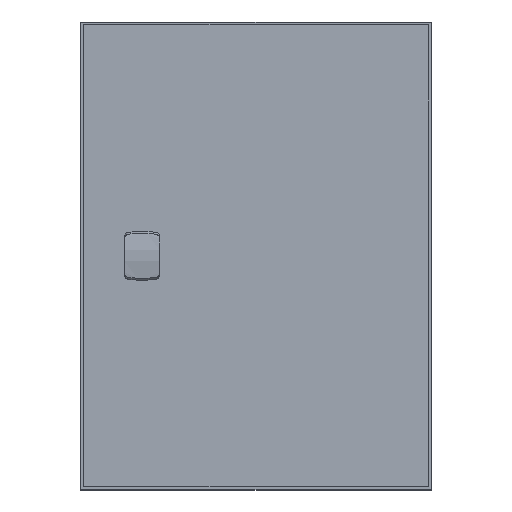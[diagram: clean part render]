
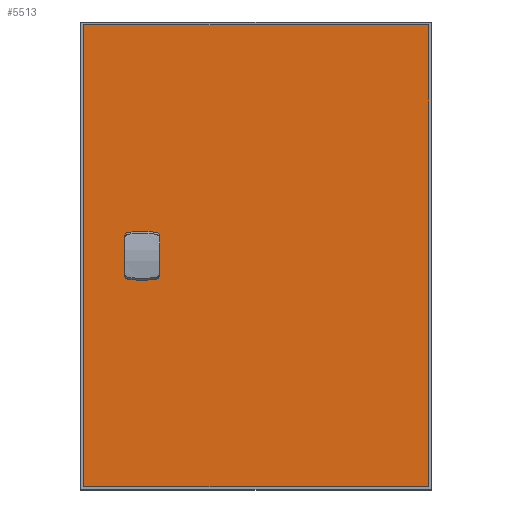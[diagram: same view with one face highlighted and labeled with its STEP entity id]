
A CAD part, top view. The second image highlights one B-rep face of the part: STEP entity #5513.
In plain terms, the highlighted planar face has unit normal (0, 0, 1).
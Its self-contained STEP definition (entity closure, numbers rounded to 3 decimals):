
#412=LINE('',#9198,#895);
#414=LINE('',#9205,#897);
#415=LINE('',#9209,#898);
#416=LINE('',#9211,#899);
#417=LINE('',#9215,#900);
#418=LINE('',#9217,#901);
#419=LINE('',#9221,#902);
#420=LINE('',#9225,#903);
#421=LINE('',#9227,#904);
#422=LINE('',#9231,#905);
#423=LINE('',#9233,#906);
#424=LINE('',#9234,#907);
#425=LINE('',#9236,#908);
#426=LINE('',#9238,#909);
#895=VECTOR('',#7559,1000.);
#897=VECTOR('',#7565,1000.);
#898=VECTOR('',#7568,1000.);
#899=VECTOR('',#7569,1000.);
#900=VECTOR('',#7572,1000.);
#901=VECTOR('',#7573,1000.);
#902=VECTOR('',#7576,1000.);
#903=VECTOR('',#7579,1000.);
#904=VECTOR('',#7580,1000.);
#905=VECTOR('',#7583,1000.);
#906=VECTOR('',#7584,1000.);
#907=VECTOR('',#7585,1000.);
#908=VECTOR('',#7586,1000.);
#909=VECTOR('',#7587,1000.);
#1771=ORIENTED_EDGE('',*,*,#2984,.F.);
#1772=ORIENTED_EDGE('',*,*,#2985,.F.);
#1773=ORIENTED_EDGE('',*,*,#2986,.F.);
#1774=ORIENTED_EDGE('',*,*,#2987,.F.);
#1775=ORIENTED_EDGE('',*,*,#2988,.F.);
#1776=ORIENTED_EDGE('',*,*,#2989,.F.);
#1777=ORIENTED_EDGE('',*,*,#2990,.F.);
#1778=ORIENTED_EDGE('',*,*,#2991,.F.);
#1779=ORIENTED_EDGE('',*,*,#2992,.F.);
#1780=ORIENTED_EDGE('',*,*,#2993,.F.);
#1781=ORIENTED_EDGE('',*,*,#2994,.F.);
#1782=ORIENTED_EDGE('',*,*,#2995,.F.);
#1783=ORIENTED_EDGE('',*,*,#2996,.F.);
#1784=ORIENTED_EDGE('',*,*,#2997,.F.);
#1785=ORIENTED_EDGE('',*,*,#2998,.F.);
#1786=ORIENTED_EDGE('',*,*,#2999,.F.);
#1787=ORIENTED_EDGE('',*,*,#3000,.T.);
#1788=ORIENTED_EDGE('',*,*,#3001,.F.);
#1789=ORIENTED_EDGE('',*,*,#3002,.F.);
#1790=ORIENTED_EDGE('',*,*,#2982,.T.);
#2982=EDGE_CURVE('',#3654,#3653,#412,.T.);
#2984=EDGE_CURVE('',#3655,#3656,#4058,.T.);
#2985=EDGE_CURVE('',#3657,#3655,#414,.T.);
#2986=EDGE_CURVE('',#3658,#3657,#4059,.T.);
#2987=EDGE_CURVE('',#3659,#3658,#415,.T.);
#2988=EDGE_CURVE('',#3660,#3659,#416,.T.);
#2989=EDGE_CURVE('',#3661,#3660,#4060,.T.);
#2990=EDGE_CURVE('',#3662,#3661,#417,.T.);
#2991=EDGE_CURVE('',#3663,#3662,#418,.T.);
#2992=EDGE_CURVE('',#3664,#3663,#4061,.T.);
#2993=EDGE_CURVE('',#3665,#3664,#419,.T.);
#2994=EDGE_CURVE('',#3666,#3665,#4062,.T.);
#2995=EDGE_CURVE('',#3667,#3666,#420,.T.);
#2996=EDGE_CURVE('',#3668,#3667,#421,.T.);
#2997=EDGE_CURVE('',#3669,#3668,#4063,.T.);
#2998=EDGE_CURVE('',#3670,#3669,#422,.T.);
#2999=EDGE_CURVE('',#3656,#3670,#423,.T.);
#3000=EDGE_CURVE('',#3653,#3671,#424,.T.);
#3001=EDGE_CURVE('',#3672,#3671,#425,.T.);
#3002=EDGE_CURVE('',#3654,#3672,#426,.T.);
#3653=VERTEX_POINT('',#9197);
#3654=VERTEX_POINT('',#9199);
#3655=VERTEX_POINT('',#9203);
#3656=VERTEX_POINT('',#9204);
#3657=VERTEX_POINT('',#9206);
#3658=VERTEX_POINT('',#9208);
#3659=VERTEX_POINT('',#9210);
#3660=VERTEX_POINT('',#9212);
#3661=VERTEX_POINT('',#9214);
#3662=VERTEX_POINT('',#9216);
#3663=VERTEX_POINT('',#9218);
#3664=VERTEX_POINT('',#9220);
#3665=VERTEX_POINT('',#9222);
#3666=VERTEX_POINT('',#9224);
#3667=VERTEX_POINT('',#9226);
#3668=VERTEX_POINT('',#9228);
#3669=VERTEX_POINT('',#9230);
#3670=VERTEX_POINT('',#9232);
#3671=VERTEX_POINT('',#9235);
#3672=VERTEX_POINT('',#9237);
#4058=CIRCLE('',#6529,11.3);
#4059=CIRCLE('',#6530,11.3);
#4060=CIRCLE('',#6531,1.25);
#4061=CIRCLE('',#6532,11.3);
#4062=CIRCLE('',#6533,11.3);
#4063=CIRCLE('',#6534,1.25);
#4415=EDGE_LOOP('',(#1771,#1772,#1773,#1774,#1775,#1776,#1777,#1778,#1779,
#1780,#1781,#1782,#1783,#1784,#1785,#1786));
#4416=EDGE_LOOP('',(#1787,#1788,#1789,#1790));
#4902=FACE_BOUND('',#4415,.T.);
#4903=FACE_BOUND('',#4416,.T.);
#5232=PLANE('',#6528);
#5513=ADVANCED_FACE('',(#4902,#4903),#5232,.F.);
#6528=AXIS2_PLACEMENT_3D('',#9201,#7561,#7562);
#6529=AXIS2_PLACEMENT_3D('',#9202,#7563,#7564);
#6530=AXIS2_PLACEMENT_3D('',#9207,#7566,#7567);
#6531=AXIS2_PLACEMENT_3D('',#9213,#7570,#7571);
#6532=AXIS2_PLACEMENT_3D('',#9219,#7574,#7575);
#6533=AXIS2_PLACEMENT_3D('',#9223,#7577,#7578);
#6534=AXIS2_PLACEMENT_3D('',#9229,#7581,#7582);
#7559=DIRECTION('',(0.,-1.,0.));
#7561=DIRECTION('',(0.,0.,-1.));
#7562=DIRECTION('',(-1.,0.,0.));
#7563=DIRECTION('',(0.,0.,1.));
#7564=DIRECTION('',(1.,0.,0.));
#7565=DIRECTION('',(0.,-1.,0.));
#7566=DIRECTION('',(0.,0.,1.));
#7567=DIRECTION('',(1.,0.,0.));
#7568=DIRECTION('',(-1.,0.,0.));
#7569=DIRECTION('',(0.,-1.,0.));
#7570=DIRECTION('',(0.,0.,1.));
#7571=DIRECTION('',(1.,0.,0.));
#7572=DIRECTION('',(0.,1.,0.));
#7573=DIRECTION('',(-1.,0.,0.));
#7574=DIRECTION('',(0.,0.,1.));
#7575=DIRECTION('',(1.,0.,0.));
#7576=DIRECTION('',(0.,1.,0.));
#7577=DIRECTION('',(0.,0.,1.));
#7578=DIRECTION('',(1.,0.,0.));
#7579=DIRECTION('',(1.,0.,0.));
#7580=DIRECTION('',(0.,1.,0.));
#7581=DIRECTION('',(0.,0.,1.));
#7582=DIRECTION('',(1.,0.,0.));
#7583=DIRECTION('',(0.,-1.,0.));
#7584=DIRECTION('',(1.,0.,0.));
#7585=DIRECTION('',(1.,0.,0.));
#7586=DIRECTION('',(0.,-1.,0.));
#7587=DIRECTION('',(1.,0.,0.));
#9197=CARTESIAN_POINT('',(-147.5,-197.5,0.));
#9198=CARTESIAN_POINT('',(-147.5,197.5,0.));
#9199=CARTESIAN_POINT('',(-147.5,197.5,0.));
#9201=CARTESIAN_POINT('',(-147.5,197.5,0.));
#9202=CARTESIAN_POINT('',(-97.5,0.,0.));
#9203=CARTESIAN_POINT('',(-107.65,-4.967,0.));
#9204=CARTESIAN_POINT('',(-102.467,-10.15,0.));
#9205=CARTESIAN_POINT('',(-107.65,4.967,0.));
#9206=CARTESIAN_POINT('',(-107.65,4.967,0.));
#9207=CARTESIAN_POINT('',(-97.5,0.,0.));
#9208=CARTESIAN_POINT('',(-102.467,10.15,0.));
#9209=CARTESIAN_POINT('',(-98.75,10.15,0.));
#9210=CARTESIAN_POINT('',(-98.75,10.15,0.));
#9211=CARTESIAN_POINT('',(-98.75,10.75,0.));
#9212=CARTESIAN_POINT('',(-98.75,10.75,0.));
#9213=CARTESIAN_POINT('',(-97.5,10.75,0.));
#9214=CARTESIAN_POINT('',(-96.25,10.75,0.));
#9215=CARTESIAN_POINT('',(-96.25,10.15,0.));
#9216=CARTESIAN_POINT('',(-96.25,10.15,0.));
#9217=CARTESIAN_POINT('',(-92.533,10.15,0.));
#9218=CARTESIAN_POINT('',(-92.533,10.15,0.));
#9219=CARTESIAN_POINT('',(-97.5,0.,0.));
#9220=CARTESIAN_POINT('',(-87.35,4.967,0.));
#9221=CARTESIAN_POINT('',(-87.35,-4.967,0.));
#9222=CARTESIAN_POINT('',(-87.35,-4.967,0.));
#9223=CARTESIAN_POINT('',(-97.5,0.,0.));
#9224=CARTESIAN_POINT('',(-92.533,-10.15,0.));
#9225=CARTESIAN_POINT('',(-96.25,-10.15,0.));
#9226=CARTESIAN_POINT('',(-96.25,-10.15,0.));
#9227=CARTESIAN_POINT('',(-96.25,-10.75,0.));
#9228=CARTESIAN_POINT('',(-96.25,-10.75,0.));
#9229=CARTESIAN_POINT('',(-97.5,-10.75,0.));
#9230=CARTESIAN_POINT('',(-98.75,-10.75,0.));
#9231=CARTESIAN_POINT('',(-98.75,-10.15,0.));
#9232=CARTESIAN_POINT('',(-98.75,-10.15,0.));
#9233=CARTESIAN_POINT('',(-102.467,-10.15,0.));
#9234=CARTESIAN_POINT('',(-147.5,-197.5,0.));
#9235=CARTESIAN_POINT('',(147.5,-197.5,0.));
#9236=CARTESIAN_POINT('',(147.5,197.5,0.));
#9237=CARTESIAN_POINT('',(147.5,197.5,0.));
#9238=CARTESIAN_POINT('',(-147.5,197.5,0.));
